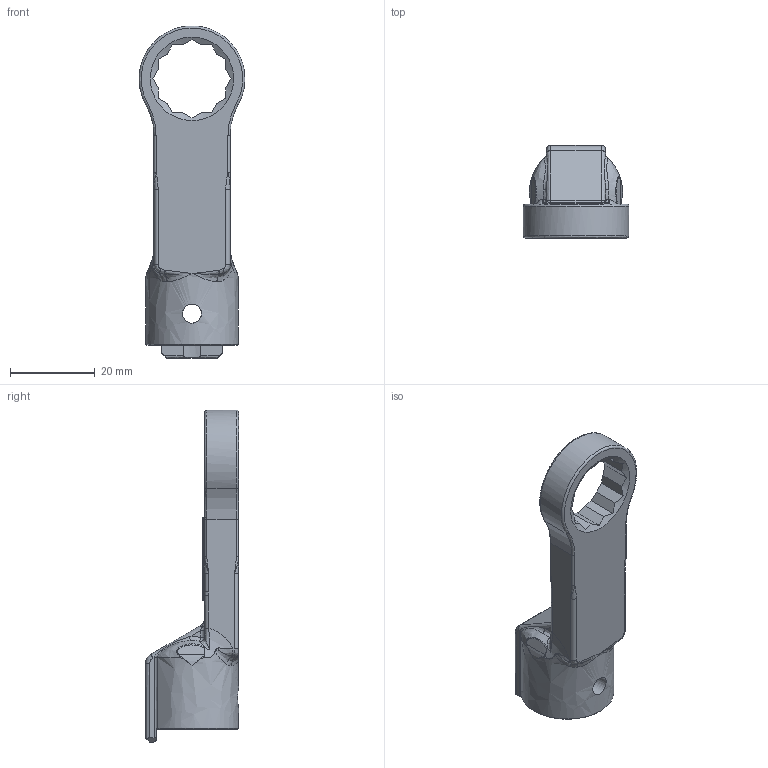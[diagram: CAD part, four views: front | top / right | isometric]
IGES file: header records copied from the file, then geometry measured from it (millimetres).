
Global section: file name: RH15DX16; native system: Autodesk Inventor 2016; preprocessor: unknown; author: Q600; date: 20151110.162024; units: millimetre
Bounding box: 25 x 22 x 78.49 mm (x, y, z)
Volume: 11437.9 mm3; surface area: 5955.8 mm2
Topology: 1 solids, 1 shells, 188 faces, 486 edges, 283 vertices
Faces by surface type: bspline 188
